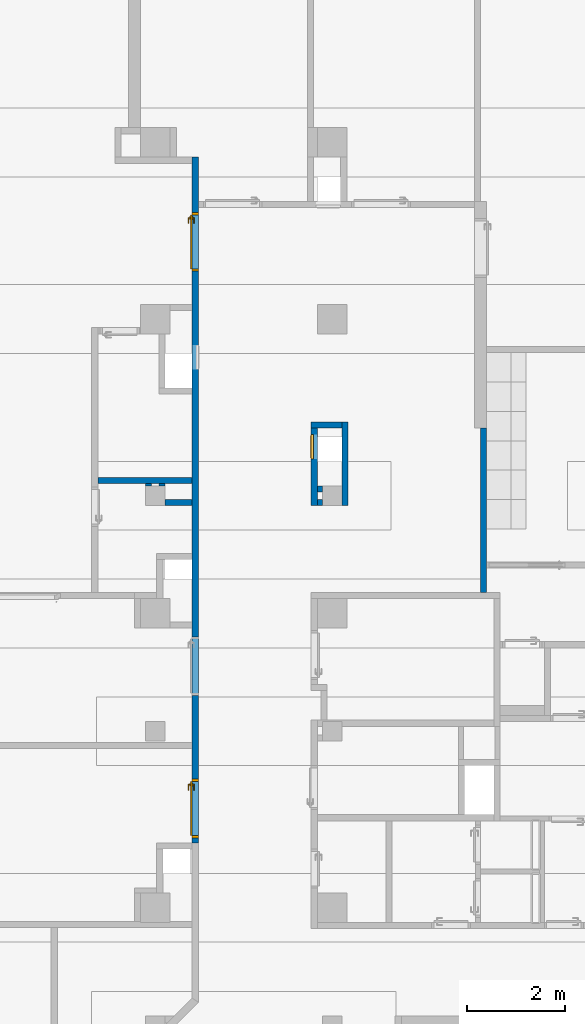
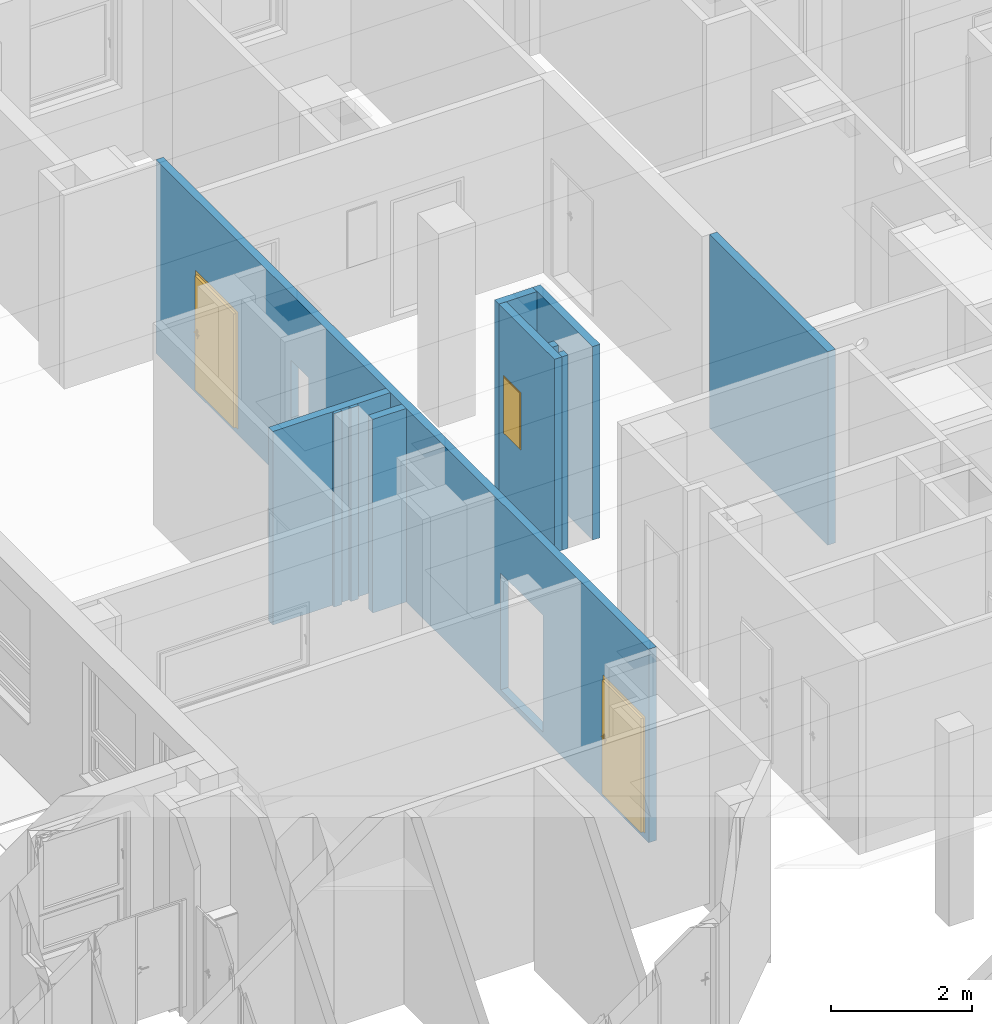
# One storey, part 45 of 140: 11 walls, 2 doors, 1 window, 5 openings.
"""IFC4 building model written with IfcOpenShell, lengths in metres."""

from ifc_helpers import new_model, entity, si_unit, converted_unit, derived_unit, frame, frame_2d, origin, origin_with_axes, place, context, subcontext, project, spatial, polyline, rectangle, outline, extrude, closed_shell, open_shell, faceted_brep, surface_model, source, transform, mapped, material, layer, layer_set, layer_usage, type_object, element, fill, save


model = new_model("IFC4")

# Units and contexts
model_context = context("Model", 3, precision=1e-05, world=origin())
body_context = subcontext(model_context, "Body", "Model", "MODEL_VIEW")
ifc_project = project(units=[si_unit("LENGTHUNIT", "METRE"), si_unit("AREAUNIT", "SQUARE_METRE"), si_unit("VOLUMEUNIT", "CUBIC_METRE"), si_unit("MASSUNIT", "GRAM", prefix="KILO"), converted_unit("PLANEANGLEUNIT", "DEGREE", entity("IfcPlaneAngleMeasure", 0.0174532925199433), si_unit("PLANEANGLEUNIT", "RADIAN"), dimensions=[0, 0, 0, 0, 0, 0, 0]), derived_unit("THERMALTRANSMITTANCEUNIT", [(si_unit("POWERUNIT", "WATT"), 1), (si_unit("THERMODYNAMICTEMPERATUREUNIT", "KELVIN"), -1), (si_unit("LENGTHUNIT", "METRE"), -2)]), derived_unit("VOLUMETRICFLOWRATEUNIT", [(si_unit("LENGTHUNIT", "METRE"), 3), (converted_unit("TIMEUNIT", "hour", entity("IfcTimeMeasure", 3600.0), si_unit("TIMEUNIT", "SECOND"), dimensions=[0, 0, 1, 0, 0, 0, 0]), -1), (si_unit("LENGTHUNIT", "METRE"), -1)])], contexts=[model_context])

# Site, building, storey
site_placement = place(None, origin())
site = spatial("IfcSite", under=ifc_project, at=site_placement, Name="3. ASŘ", CompositionType="ELEMENT")
building_placement = place(site_placement, origin())
building = spatial("IfcBuilding", under=site, at=building_placement, Name="Pavilon C", CompositionType="ELEMENT")
storey_placement = place(building_placement, origin())
storey = spatial("IfcBuildingStorey", under=building, at=storey_placement, Name="Půdorys 1.NP", CompositionType="ELEMENT", Elevation=0.0)

# Wall
ifc_material_1 = material(Name="ZDIVO Z CDm")
ifc_layer_1 = layer(ifc_material_1, 0.125)
ifc_layer_set_1 = layer_set([ifc_layer_1])
ifc_layer_usage_1 = layer_usage(ifc_layer_set_1, "AXIS2", "POSITIVE", 0.0)
wall_1_placement = place(storey_placement, frame((37.5, 19.625, -0.1), z_axis=(0.0, 0.0, 1.0), x_axis=(0.0, 1.0, 0.0)))
element("IfcWall", 1, at=wall_1_placement, inside=storey, material=ifc_layer_usage_1, Name="ZDIVO Z CDm", context=body_context, shape_type="SweptSolid", body=[
    extrude(rectangle(XDim=3.35000000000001, YDim=0.125, at=frame_2d((1.675, 0.0625), x_axis=(1.0, 0.0))), origin_with_axes(), (0.0, 0.0, 1.0), 3.35),
])

# Wall, openings, doors
ifc_material_2 = material(Name="ZDIVO Z CDm")
ifc_layer_2 = layer(ifc_material_2, 0.125)
ifc_layer_set_2 = layer_set([ifc_layer_2])
ifc_layer_usage_2 = layer_usage(ifc_layer_set_2, "AXIS2", "POSITIVE", 0.0)
wall_2_placement = place(storey_placement, frame((31.5, 28.5, -0.1), z_axis=(0.0, 0.0, 1.0), x_axis=(0.0, -1.0, 0.0)))
wall_2 = element("IfcWall", 2, at=wall_2_placement, inside=storey, material=ifc_layer_usage_2, Name="ZDIVO Z CDm", context=body_context, shape_type="SweptSolid", body=[
    extrude(rectangle(XDim=13.975, YDim=0.125, at=frame_2d((6.9875, 0.0625), x_axis=(1.0, 0.0))), origin_with_axes(), (0.0, 0.0, 1.0), 3.35),
])
opening_1_placement = place(wall_2_placement, frame((12.675, 0.0, 0.1), z_axis=(0.0, 1.0, 0.0), x_axis=(0.0, 0.0, 1.0)))
opening_1 = element("IfcOpeningElement", 3, at=opening_1_placement, cuts=wall_2, Name="Dveřní otvor", ObjectType="Opening", context=body_context, shape_type="SweptSolid", body=[
    extrude(outline(polyline([(0.0, 1.2), (2.02, 1.2), (2.02, 0.0), (0.0, 0.0), (0.0, 1.2)])), origin_with_axes(), (0.0, 0.0, 1.0), 0.125),
])
opening_2_placement = place(wall_2_placement, frame((10.975, 0.125, 0.1), z_axis=(0.0, -1.0, 0.0), x_axis=(0.0, 0.0, 1.0)))
element("IfcOpeningElement", 4, at=opening_2_placement, cuts=wall_2, Name="Dveřní otvor", ObjectType="Opening", context=body_context, shape_type="SweptSolid", body=[
    extrude(outline(polyline([(0.0, 1.2), (2.02, 1.2), (2.02, 0.0), (0.0, 0.0), (0.0, 1.2)])), origin_with_axes(), (0.0, 0.0, 1.0), 0.125),
])
opening_3_placement = place(wall_2_placement, frame((1.12500000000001, 0.0, 0.1), z_axis=(0.0, 1.0, 0.0), x_axis=(0.0, 0.0, 1.0)))
opening_3 = element("IfcOpeningElement", 5, at=opening_3_placement, cuts=wall_2, Name="Dveřní otvor", ObjectType="Opening", context=body_context, shape_type="SweptSolid", body=[
    extrude(outline(polyline([(0.0, 1.2), (2.02, 1.2), (2.02, 0.0), (0.0, 0.0), (0.0, 1.2)])), origin_with_axes(), (0.0, 0.0, 1.0), 0.125),
])
opening_4_placement = place(wall_2_placement, frame((4.32500000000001, 0.125, 1.2), z_axis=(0.0, -1.0, 0.0), x_axis=(0.0, 0.0, 1.0)))
element("IfcOpeningElement", 6, at=opening_4_placement, cuts=wall_2, Name="Okenní otvor", ObjectType="Opening", context=body_context, shape_type="SweptSolid", body=[
    extrude(outline(polyline([(0.0, 0.5), (1.0, 0.5), (1.0, 0.0), (0.0, 0.0), (0.0, 0.5)])), origin_with_axes(), (0.0, 0.0, 1.0), 0.125),
])
door_type_1 = type_object("IfcDoorType", Name="D101", OperationType="NOTDEFINED", ParameterTakesPrecedence=False, PredefinedType="DOOR")
shared_shape_1 = source(origin_with_axes(), body_context, "Body", "SurfaceModel", [
    surface_model("IfcShellBasedSurfaceModel", [(0.0, 0.125, 2.02), (0.0, 0.125, -7.65404249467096e-18), (0.05, 0.125, -7.65404249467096e-18), (0.05, 0.125, 2.02), (0.0, 0.0, 7.65404249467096e-18), (0.0, 2.41584530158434e-16, 2.02), (0.05, 2.41584530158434e-16, 2.02), (0.05, 0.0, 7.65404249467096e-18)], [closed_shell([[[0, 1, 2, 3]], [[4, 5, 6, 7]], [[1, 0, 5, 4]], [[2, 1, 4, 7]], [[3, 2, 7, 6]], [[0, 3, 6, 5]]], orient=[[False], [False], [False], [False], [False], [False]])]),
    surface_model("IfcShellBasedSurfaceModel", [(1.15, 0.125, 2.02), (1.15, 0.125, -7.65404249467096e-18), (1.2, 0.125, -7.65404249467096e-18), (1.2, 0.125, 2.02), (1.15, 0.0, 7.65404249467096e-18), (1.15, 2.41584530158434e-16, 2.02), (1.2, 2.41584530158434e-16, 2.02), (1.2, 0.0, 7.65404249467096e-18)], [closed_shell([[[0, 1, 2, 3]], [[4, 5, 6, 7]], [[1, 0, 5, 4]], [[2, 1, 4, 7]], [[3, 2, 7, 6]], [[0, 3, 6, 5]]], orient=[[False], [False], [False], [False], [False], [False]])]),
    surface_model("IfcShellBasedSurfaceModel", [(0.05, 0.125, 2.02), (0.05, 0.125, 1.97), (1.15, 0.125, 1.97), (1.15, 0.125, 2.02), (0.05, 2.41584530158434e-16, 1.97), (0.05, 2.41584530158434e-16, 2.02), (1.15, 2.41584530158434e-16, 2.02), (1.15, 2.41584530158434e-16, 1.97)], [closed_shell([[[0, 1, 2, 3]], [[4, 5, 6, 7]], [[1, 0, 5, 4]], [[2, 1, 4, 7]], [[3, 2, 7, 6]], [[0, 3, 6, 5]]], orient=[[False], [False], [False], [False], [False], [False]])]),
    surface_model("IfcShellBasedSurfaceModel", [(0.05, 0.165, 1.97), (0.05, 0.165, -1.25526296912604e-17), (1.15, 0.165, -1.25526296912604e-17), (1.15, 0.165, 1.97), (0.05, 0.125, -7.65404249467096e-18), (0.05, 0.125, 1.97), (1.15, 0.125, 1.97), (1.15, 0.125, -7.65404249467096e-18)], [closed_shell([[[0, 1, 2, 3]], [[4, 5, 6, 7]], [[1, 0, 5, 4]], [[2, 1, 4, 7]], [[3, 2, 7, 6]], [[0, 3, 6, 5]]], orient=[[False], [False], [False], [False], [False], [False]])]),
    surface_model("IfcShellBasedSurfaceModel", [(1.10881569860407, 0.125, 0.93625), (1.1125, 0.125, 0.95), (1.10881569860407, 0.125, 0.96375), (1.09875, 0.125, 0.973815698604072), (1.085, 0.125, 0.9775), (1.07125, 0.125, 0.973815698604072), (1.06118430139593, 0.125, 0.96375), (1.0575, 0.125, 0.95), (1.06118430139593, 0.125, 0.93625), (1.07125, 0.125, 0.926184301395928), (1.085, 0.125, 0.9225), (1.09875, 0.125, 0.926184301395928), (1.1125, 0.1125, 0.95), (1.10881569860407, 0.1125, 0.93625), (1.09875, 0.1125, 0.926184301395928), (1.085, 0.1125, 0.9225), (1.07125, 0.1125, 0.926184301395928), (1.06118430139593, 0.1125, 0.93625), (1.0575, 0.1125, 0.95), (1.06118430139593, 0.1125, 0.96375), (1.07125, 0.1125, 0.973815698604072), (1.085, 0.1125, 0.9775), (1.09875, 0.1125, 0.973815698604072), (1.10881569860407, 0.1125, 0.96375)], [closed_shell([[[0, 1, 2, 3, 4, 5, 6, 7, 8, 9, 10, 11]], [[12, 13, 14, 15, 16, 17, 18, 19, 20, 21, 22, 23]], [[1, 0, 13, 12]], [[2, 1, 12, 23]], [[3, 2, 23, 22]], [[4, 3, 22, 21]], [[5, 4, 21, 20]], [[6, 5, 20, 19]], [[7, 6, 19, 18]], [[8, 7, 18, 17]], [[9, 8, 17, 16]], [[10, 9, 16, 15]], [[11, 10, 15, 14]], [[0, 11, 14, 13]]], orient=[[False], [False], [False], [False], [False], [False], [False], [False], [False], [False], [False], [False], [False], [False]])]),
    surface_model("IfcShellBasedSurfaceModel", [(1.10881569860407, 0.125, 1.03625), (1.1125, 0.125, 1.05), (1.10881569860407, 0.125, 1.06375), (1.09875, 0.125, 1.07381569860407), (1.085, 0.125, 1.0775), (1.07125, 0.125, 1.07381569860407), (1.06118430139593, 0.125, 1.06375), (1.0575, 0.125, 1.05), (1.06118430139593, 0.125, 1.03625), (1.07125, 0.125, 1.02618430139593), (1.085, 0.125, 1.0225), (1.09875, 0.125, 1.02618430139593), (1.1125, 0.1125, 1.05), (1.10881569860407, 0.1125, 1.03625), (1.09875, 0.1125, 1.02618430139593), (1.085, 0.1125, 1.0225), (1.07125, 0.1125, 1.02618430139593), (1.06118430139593, 0.1125, 1.03625), (1.0575, 0.1125, 1.05), (1.06118430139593, 0.1125, 1.06375), (1.07125, 0.1125, 1.07381569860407), (1.085, 0.1125, 1.0775), (1.09875, 0.1125, 1.07381569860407), (1.10881569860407, 0.1125, 1.06375)], [closed_shell([[[0, 1, 2, 3, 4, 5, 6, 7, 8, 9, 10, 11]], [[12, 13, 14, 15, 16, 17, 18, 19, 20, 21, 22, 23]], [[1, 0, 13, 12]], [[2, 1, 12, 23]], [[3, 2, 23, 22]], [[4, 3, 22, 21]], [[5, 4, 21, 20]], [[6, 5, 20, 19]], [[7, 6, 19, 18]], [[8, 7, 18, 17]], [[9, 8, 17, 16]], [[10, 9, 16, 15]], [[11, 10, 15, 14]], [[0, 11, 14, 13]]], orient=[[False], [False], [False], [False], [False], [False], [False], [False], [False], [False], [False], [False], [False], [False]])]),
    surface_model("IfcShellBasedSurfaceModel", [(1.085, 0.125, 1.06), (1.08, 0.125, 1.05866025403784), (1.07633974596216, 0.125, 1.055), (1.075, 0.125, 1.05), (1.07633974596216, 0.125, 1.045), (1.08, 0.125, 1.04133974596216), (1.085, 0.125, 1.04), (1.09, 0.125, 1.04133974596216), (1.09366025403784, 0.125, 1.045), (1.095, 0.125, 1.05), (1.09366025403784, 0.125, 1.055), (1.09, 0.125, 1.05866025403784), (1.09, 0.0800000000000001, 1.05866025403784), (1.085, 0.0850000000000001, 1.06), (1.09366025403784, 0.0763397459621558, 1.055), (1.095, 0.0750000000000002, 1.05), (1.09366025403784, 0.0763397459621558, 1.045), (1.09, 0.0800000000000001, 1.04133974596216), (1.085, 0.0850000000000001, 1.04), (1.08, 0.0900000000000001, 1.04133974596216), (1.07633974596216, 0.0936602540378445, 1.045), (1.075, 0.0950000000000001, 1.05), (1.07633974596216, 0.0936602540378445, 1.055), (1.08, 0.0900000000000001, 1.05866025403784), (0.97, 0.0800000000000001, 1.05866025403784), (0.97, 0.0850000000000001, 1.06), (0.97, 0.0763397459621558, 1.055), (0.97, 0.0750000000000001, 1.05), (0.97, 0.0763397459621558, 1.045), (0.97, 0.0800000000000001, 1.04133974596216), (0.97, 0.0850000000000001, 1.04), (0.97, 0.0900000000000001, 1.04133974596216), (0.97, 0.0936602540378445, 1.045), (0.97, 0.0950000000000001, 1.05), (0.97, 0.0936602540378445, 1.055), (0.97, 0.0900000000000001, 1.05866025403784)], [open_shell([[[0, 1, 2, 3, 4, 5, 6, 7, 8, 9, 10, 11]], [[0, 11, 12, 13]], [[11, 10, 14, 12]], [[10, 9, 15, 14]], [[9, 8, 16, 15]], [[8, 7, 17, 16]], [[7, 6, 18, 17]], [[6, 5, 19, 18]], [[5, 4, 20, 19]], [[4, 3, 21, 20]], [[3, 2, 22, 21]], [[2, 1, 23, 22]], [[1, 0, 13, 23]], [[13, 12, 24, 25]], [[12, 14, 26, 24]], [[14, 15, 27, 26]], [[15, 16, 28, 27]], [[16, 17, 29, 28]], [[17, 18, 30, 29]], [[18, 19, 31, 30]], [[19, 20, 32, 31]], [[20, 21, 33, 32]], [[21, 22, 34, 33]], [[22, 23, 35, 34]], [[23, 13, 25, 35]]], orient=[[False], [False], [False], [False], [False], [False], [False], [False], [False], [False], [False], [False], [False], [False], [False], [False], [False], [False], [False], [False], [False], [False], [False], [False], [False]])]),
    surface_model("IfcShellBasedSurfaceModel", [(1.10881569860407, 0.165, 0.93625), (1.09875, 0.165, 0.926184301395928), (1.085, 0.165, 0.9225), (1.07125, 0.165, 0.926184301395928), (1.06118430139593, 0.165, 0.93625), (1.0575, 0.165, 0.95), (1.06118430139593, 0.165, 0.96375), (1.07125, 0.165, 0.973815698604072), (1.085, 0.165, 0.9775), (1.09875, 0.165, 0.973815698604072), (1.10881569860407, 0.165, 0.96375), (1.1125, 0.165, 0.95), (1.1125, 0.1775, 0.95), (1.10881569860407, 0.1775, 0.96375), (1.09875, 0.1775, 0.973815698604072), (1.085, 0.1775, 0.9775), (1.07125, 0.1775, 0.973815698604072), (1.06118430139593, 0.1775, 0.96375), (1.0575, 0.1775, 0.95), (1.06118430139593, 0.1775, 0.93625), (1.07125, 0.1775, 0.926184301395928), (1.085, 0.1775, 0.9225), (1.09875, 0.1775, 0.926184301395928), (1.10881569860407, 0.1775, 0.93625)], [closed_shell([[[0, 1, 2, 3, 4, 5, 6, 7, 8, 9, 10, 11]], [[12, 13, 14, 15, 16, 17, 18, 19, 20, 21, 22, 23]], [[11, 12, 23, 0]], [[10, 13, 12, 11]], [[9, 14, 13, 10]], [[8, 15, 14, 9]], [[7, 16, 15, 8]], [[6, 17, 16, 7]], [[5, 18, 17, 6]], [[4, 19, 18, 5]], [[3, 20, 19, 4]], [[2, 21, 20, 3]], [[1, 22, 21, 2]], [[0, 23, 22, 1]]], orient=[[False], [False], [False], [False], [False], [False], [False], [False], [False], [False], [False], [False], [False], [False]])]),
    surface_model("IfcShellBasedSurfaceModel", [(1.10881569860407, 0.165, 1.03625), (1.09875, 0.165, 1.02618430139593), (1.085, 0.165, 1.0225), (1.07125, 0.165, 1.02618430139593), (1.06118430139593, 0.165, 1.03625), (1.0575, 0.165, 1.05), (1.06118430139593, 0.165, 1.06375), (1.07125, 0.165, 1.07381569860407), (1.085, 0.165, 1.0775), (1.09875, 0.165, 1.07381569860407), (1.10881569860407, 0.165, 1.06375), (1.1125, 0.165, 1.05), (1.1125, 0.1775, 1.05), (1.10881569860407, 0.1775, 1.06375), (1.09875, 0.1775, 1.07381569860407), (1.085, 0.1775, 1.0775), (1.07125, 0.1775, 1.07381569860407), (1.06118430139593, 0.1775, 1.06375), (1.0575, 0.1775, 1.05), (1.06118430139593, 0.1775, 1.03625), (1.07125, 0.1775, 1.02618430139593), (1.085, 0.1775, 1.0225), (1.09875, 0.1775, 1.02618430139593), (1.10881569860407, 0.1775, 1.03625)], [closed_shell([[[0, 1, 2, 3, 4, 5, 6, 7, 8, 9, 10, 11]], [[12, 13, 14, 15, 16, 17, 18, 19, 20, 21, 22, 23]], [[11, 12, 23, 0]], [[10, 13, 12, 11]], [[9, 14, 13, 10]], [[8, 15, 14, 9]], [[7, 16, 15, 8]], [[6, 17, 16, 7]], [[5, 18, 17, 6]], [[4, 19, 18, 5]], [[3, 20, 19, 4]], [[2, 21, 20, 3]], [[1, 22, 21, 2]], [[0, 23, 22, 1]]], orient=[[False], [False], [False], [False], [False], [False], [False], [False], [False], [False], [False], [False], [False], [False]])]),
    surface_model("IfcShellBasedSurfaceModel", [(1.085, 0.165, 1.06), (1.09, 0.165, 1.05866025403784), (1.09366025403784, 0.165, 1.055), (1.095, 0.165, 1.05), (1.09366025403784, 0.165, 1.045), (1.09, 0.165, 1.04133974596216), (1.085, 0.165, 1.04), (1.08, 0.165, 1.04133974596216), (1.07633974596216, 0.165, 1.045), (1.075, 0.165, 1.05), (1.07633974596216, 0.165, 1.055), (1.08, 0.165, 1.05866025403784), (1.085, 0.205, 1.06), (1.09, 0.21, 1.05866025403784), (1.09366025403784, 0.213660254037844, 1.055), (1.095, 0.215, 1.05), (1.09366025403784, 0.213660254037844, 1.045), (1.09, 0.21, 1.04133974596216), (1.085, 0.205, 1.04), (1.08, 0.2, 1.04133974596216), (1.07633974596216, 0.196339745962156, 1.045), (1.075, 0.195, 1.05), (1.07633974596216, 0.196339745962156, 1.055), (1.08, 0.2, 1.05866025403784), (0.97, 0.205, 1.06), (0.97, 0.21, 1.05866025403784), (0.97, 0.213660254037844, 1.055), (0.97, 0.215, 1.05), (0.97, 0.213660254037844, 1.045), (0.97, 0.21, 1.04133974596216), (0.97, 0.205, 1.04), (0.97, 0.2, 1.04133974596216), (0.97, 0.196339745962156, 1.045), (0.97, 0.195, 1.05), (0.97, 0.196339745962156, 1.055), (0.97, 0.2, 1.05866025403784)], [open_shell([[[0, 1, 2, 3, 4, 5, 6, 7, 8, 9, 10, 11]], [[0, 12, 13, 1]], [[1, 13, 14, 2]], [[2, 14, 15, 3]], [[3, 15, 16, 4]], [[4, 16, 17, 5]], [[5, 17, 18, 6]], [[6, 18, 19, 7]], [[7, 19, 20, 8]], [[8, 20, 21, 9]], [[9, 21, 22, 10]], [[10, 22, 23, 11]], [[11, 23, 12, 0]], [[12, 24, 25, 13]], [[13, 25, 26, 14]], [[14, 26, 27, 15]], [[15, 27, 28, 16]], [[16, 28, 29, 17]], [[17, 29, 30, 18]], [[18, 30, 31, 19]], [[19, 31, 32, 20]], [[20, 32, 33, 21]], [[21, 33, 34, 22]], [[22, 34, 35, 23]], [[23, 35, 24, 12]]], orient=[[False], [False], [False], [False], [False], [False], [False], [False], [False], [False], [False], [False], [False], [False], [False], [False], [False], [False], [False], [False], [False], [False], [False], [False], [False]])]),
])
door_1_placement = place(opening_1_placement, frame((0.0, 1.20000000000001, 0.124999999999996), z_axis=(1.0, 0.0, 0.0), x_axis=(0.0, -1.0, 1.22464679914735e-16)))
door_1 = element("IfcDoor", 7, at=door_1_placement, inside=storey, type_object=door_type_1, Name="D101", OverallHeight=2.02, OverallWidth=1.2, context=body_context, shape_type="MappedRepresentation", body=[
    mapped(shared_shape_1, transform((0.0, 0.0, 0.0), x_axis=(1.0, 0.0, 0.0), y_axis=(0.0, 1.0, 0.0), z_axis=(0.0, 0.0, 1.0), scale=1.0)),
])
fill(opening_1, door_1)
door_type_2 = type_object("IfcDoorType", Name="D101", OperationType="NOTDEFINED", ParameterTakesPrecedence=False, PredefinedType="DOOR")
door_2_placement = place(opening_3_placement, frame((0.0, 1.20000000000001, 0.124999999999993), z_axis=(1.0, 0.0, 0.0), x_axis=(0.0, -1.0, 1.22464679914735e-16)))
door_2 = element("IfcDoor", 8, at=door_2_placement, inside=storey, type_object=door_type_2, Name="D101", OverallHeight=2.02, OverallWidth=1.2, context=body_context, shape_type="MappedRepresentation", body=[
    mapped(shared_shape_1, transform((0.0, 0.0, 0.0), x_axis=(1.0, 0.0, 0.0), y_axis=(0.0, 1.0, 0.0), z_axis=(0.0, 0.0, 1.0), scale=1.0)),
])
fill(opening_3, door_2)

# Walls
ifc_material_3 = material(Name="ZDIVO Z CDm")
ifc_layer_3 = layer(ifc_material_3, 0.125)
ifc_layer_set_3 = layer_set([ifc_layer_3])
ifc_layer_usage_3 = layer_usage(ifc_layer_set_3, "AXIS2", "POSITIVE", 0.0)
wall_3_placement = place(storey_placement, frame((30.95, 21.4, -0.1)))
element("IfcWall", 9, at=wall_3_placement, inside=storey, material=ifc_layer_usage_3, Name="ZDIVO Z CDm", context=body_context, shape_type="SweptSolid", body=[
    extrude(rectangle(XDim=0.549999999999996, YDim=0.125, at=frame_2d((0.274999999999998, 0.0625), x_axis=(1.0, 0.0))), origin_with_axes(), (0.0, 0.0, 1.0), 3.35),
])
ifc_material_4 = material(Name="ZDIVO Z CDm")
ifc_layer_4 = layer(ifc_material_4, 0.125)
ifc_layer_set_4 = layer_set([ifc_layer_4])
ifc_layer_usage_4 = layer_usage(ifc_layer_set_4, "AXIS2", "POSITIVE", 0.0)
wall_4_placement = place(storey_placement, frame((34.675, 21.4, -0.1), z_axis=(0.0, 0.0, 1.0), x_axis=(0.0, 1.0, 0.0)))
element("IfcWall", 10, at=wall_4_placement, inside=storey, material=ifc_layer_usage_4, Name="ZDIVO Z CDm", context=body_context, shape_type="SweptSolid", body=[
    extrude(rectangle(XDim=1.70000000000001, YDim=0.125, at=frame_2d((0.850000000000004, 0.0625), x_axis=(1.0, 0.0))), origin_with_axes(), (0.0, 0.0, 1.0), 3.35),
])
ifc_material_5 = material(Name="ZDIVO Z CDm")
ifc_layer_5 = layer(ifc_material_5, 0.125)
ifc_layer_set_5 = layer_set([ifc_layer_5])
ifc_layer_usage_5 = layer_usage(ifc_layer_set_5, "AXIS2", "POSITIVE", 0.0)
wall_5_placement = place(storey_placement, frame((34.15, 21.8, -0.1), z_axis=(0.0, 0.0, 1.0), x_axis=(-1.0, 0.0, 0.0)))
element("IfcWall", 11, at=wall_5_placement, inside=storey, material=ifc_layer_usage_5, Name="ZDIVO Z CDm", context=body_context, shape_type="SweptSolid", body=[
    extrude(rectangle(XDim=0.1, YDim=0.125, at=frame_2d((0.05, 0.0625), x_axis=(1.0, 0.0))), origin_with_axes(), (0.0, 0.0, 1.0), 3.35),
])
ifc_material_6 = material(Name="ZDIVO Z CDm")
ifc_layer_6 = layer(ifc_material_6, 0.125)
ifc_layer_set_6 = layer_set([ifc_layer_6])
ifc_layer_usage_6 = layer_usage(ifc_layer_set_6, "AXIS2", "POSITIVE", 0.0)
wall_6_placement = place(storey_placement, frame((34.05, 21.4, -0.1)))
element("IfcWall", 12, at=wall_6_placement, inside=storey, material=ifc_layer_usage_6, Name="ZDIVO Z CDm", context=body_context, shape_type="SweptSolid", body=[
    extrude(rectangle(XDim=0.1, YDim=0.125, at=frame_2d((0.05, 0.0625), x_axis=(1.0, 0.0))), origin_with_axes(), (0.0, 0.0, 1.0), 3.35),
])

# Wall, opening, window
ifc_material_7 = material(Name="ZDIVO Z CDm")
ifc_layer_7 = layer(ifc_material_7, 0.125)
ifc_layer_set_7 = layer_set([ifc_layer_7])
ifc_layer_usage_7 = layer_usage(ifc_layer_set_7, "AXIS2", "POSITIVE", 0.0)
wall_7_placement = place(storey_placement, frame((34.05, 21.4, -0.1), z_axis=(0.0, 0.0, 1.0), x_axis=(0.0, 1.0, 0.0)))
wall_7 = element("IfcWall", 13, at=wall_7_placement, inside=storey, material=ifc_layer_usage_7, Name="ZDIVO Z CDm", context=body_context, shape_type="SweptSolid", body=[
    extrude(rectangle(XDim=1.57500000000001, YDim=0.125, at=frame_2d((0.787500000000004, 0.0625), x_axis=(1.0, 0.0))), origin_with_axes(), (0.0, 0.0, 1.0), 3.35),
])
opening_5_placement = place(wall_7_placement, frame((1.45, 0.125, 1.2), z_axis=(0.0, -1.0, 0.0), x_axis=(0.0, 0.0, 1.0)))
opening_5 = element("IfcOpeningElement", 14, at=opening_5_placement, cuts=wall_7, Name="Okenní otvor", ObjectType="Opening", context=body_context, shape_type="SweptSolid", body=[
    extrude(outline(polyline([(0.0, 0.5), (1.0, 0.5), (1.0, 0.0), (0.0, 0.0), (0.0, 0.5)])), origin_with_axes(), (0.0, 0.0, 1.0), 0.125),
])
shared_shape_2 = source(origin_with_axes(), body_context, "Body", "Brep", [
    faceted_brep([(0.0, 0.0600000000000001, 1.0), (0.0, 0.06, 4.91096680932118e-19), (0.02, 0.06, 4.91096680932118e-19), (0.02, 0.0600000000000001, 1.0), (0.0, 0.01, 6.61433067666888e-18), (0.0, 0.0100000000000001, 1.0), (0.02, 0.0100000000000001, 1.0), (0.02, 0.01, 6.61433067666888e-18)], [[[0, 1, 2, 3]], [[4, 5, 6, 7]], [[1, 0, 5, 4]], [[2, 1, 4, 7]], [[3, 2, 7, 6]], [[0, 3, 6, 5]]], orient=[[False], [False], [False], [False], [False], [False]]),
    faceted_brep([(0.48, 0.0600000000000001, 1.0), (0.48, 0.06, 4.91096680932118e-19), (0.5, 0.06, 4.91096680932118e-19), (0.5, 0.0600000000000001, 1.0), (0.48, 0.01, 6.61433067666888e-18), (0.48, 0.0100000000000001, 1.0), (0.5, 0.0100000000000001, 1.0), (0.5, 0.01, 6.61433067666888e-18)], [[[0, 1, 2, 3]], [[4, 5, 6, 7]], [[1, 0, 5, 4]], [[2, 1, 4, 7]], [[3, 2, 7, 6]], [[0, 3, 6, 5]]], orient=[[False], [False], [False], [False], [False], [False]]),
    faceted_brep([(0.02, 0.06, 0.02), (0.02, 0.06, 4.91096680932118e-19), (0.48, 0.06, 4.91096680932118e-19), (0.48, 0.06, 0.02), (0.02, 0.01, 6.61433067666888e-18), (0.02, 0.01, 0.02), (0.48, 0.01, 0.02), (0.48, 0.01, 6.61433067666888e-18)], [[[0, 1, 2, 3]], [[4, 5, 6, 7]], [[1, 0, 5, 4]], [[2, 1, 4, 7]], [[3, 2, 7, 6]], [[0, 3, 6, 5]]], orient=[[False], [False], [False], [False], [False], [False]]),
    faceted_brep([(0.02, 0.0600000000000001, 1.0), (0.02, 0.0600000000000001, 0.98), (0.48, 0.0600000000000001, 0.98), (0.48, 0.0600000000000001, 1.0), (0.02, 0.0100000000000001, 0.98), (0.02, 0.0100000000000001, 1.0), (0.48, 0.0100000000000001, 1.0), (0.48, 0.0100000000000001, 0.98)], [[[0, 1, 2, 3]], [[4, 5, 6, 7]], [[1, 0, 5, 4]], [[2, 1, 4, 7]], [[3, 2, 7, 6]], [[0, 3, 6, 5]]], orient=[[False], [False], [False], [False], [False], [False]]),
    faceted_brep([(0.02, 0.0100000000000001, 0.98), (0.02, 0.01, 0.02), (0.48, 0.01, 0.02), (0.48, 0.0100000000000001, 0.98), (0.02, 0.0, 0.02), (0.02, 1.17239551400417e-16, 0.98), (0.48, 1.17239551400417e-16, 0.98), (0.48, 0.0, 0.02)], [[[0, 1, 2, 3]], [[4, 5, 6, 7]], [[1, 0, 5, 4]], [[2, 1, 4, 7]], [[3, 2, 7, 6]], [[0, 3, 6, 5]]], orient=[[False], [False], [False], [False], [False], [False]]),
])
window_placement = place(opening_5_placement, frame((0.0, 7.27595761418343e-15, -0.0100000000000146), z_axis=(1.0, 0.0, 0.0), x_axis=(0.0, 1.0, 1.22464679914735e-16)))
window = element("IfcWindow", 15, at=window_placement, inside=storey, Name="O01", OverallHeight=1.0, OverallWidth=0.5, PartitioningType="USERDEFINED", PredefinedType="WINDOW", context=body_context, shape_type="MappedRepresentation", body=[
    mapped(shared_shape_2, transform((0.0, 0.0, 0.0), x_axis=(1.0, 0.0, 0.0), y_axis=(0.0, 1.0, 0.0), z_axis=(0.0, 0.0, 1.0), scale=1.0)),
])
fill(opening_5, window)

# Walls
ifc_material_8 = material(Name="ZDIVO Z CDm")
ifc_layer_8 = layer(ifc_material_8, 0.125)
ifc_layer_set_8 = layer_set([ifc_layer_8])
ifc_layer_usage_8 = layer_usage(ifc_layer_set_8, "AXIS2", "POSITIVE", 0.0)
wall_8_placement = place(storey_placement, frame((33.925, 22.975, -0.1)))
element("IfcWall", 16, at=wall_8_placement, inside=storey, material=ifc_layer_usage_8, Name="ZDIVO Z CDm", context=body_context, shape_type="SweptSolid", body=[
    extrude(rectangle(XDim=0.625, YDim=0.125, at=frame_2d((0.3125, 0.0625), x_axis=(1.0, 0.0))), origin_with_axes(), (0.0, 0.0, 1.0), 3.35),
])
ifc_material_9 = material(Name="ZDIVO Z CDm")
ifc_layer_9 = layer(ifc_material_9, 0.125)
ifc_layer_set_9 = layer_set([ifc_layer_9])
ifc_layer_usage_9 = layer_usage(ifc_layer_set_9, "AXIS2", "POSITIVE", 0.0)
wall_9_placement = place(storey_placement, frame((29.575, 21.85, -0.1)))
element("IfcWall", 17, at=wall_9_placement, inside=storey, material=ifc_layer_usage_9, Name="ZDIVO Z CDm", context=body_context, shape_type="SweptSolid", body=[
    extrude(rectangle(XDim=1.925, YDim=0.125, at=frame_2d((0.9625, 0.0625), x_axis=(1.0, 0.0))), origin_with_axes(), (0.0, 0.0, 1.0), 3.35),
])
ifc_material_10 = material(Name="ZDIVO Z CDm")
ifc_layer_10 = layer(ifc_material_10, 0.125)
ifc_layer_set_10 = layer_set([ifc_layer_10])
ifc_layer_usage_10 = layer_usage(ifc_layer_set_10, "AXIS2", "POSITIVE", 0.0)
wall_10_placement = place(storey_placement, frame((30.95, 21.8, -0.1), z_axis=(0.0, 0.0, 1.0), x_axis=(0.0, 1.0, 0.0)))
element("IfcWall", 18, at=wall_10_placement, inside=storey, material=ifc_layer_usage_10, Name="ZDIVO Z CDm", context=body_context, shape_type="SweptSolid", body=[
    extrude(rectangle(XDim=0.05, YDim=0.125, at=frame_2d((0.025, 0.0625), x_axis=(1.0, 0.0))), origin_with_axes(), (0.0, 0.0, 1.0), 3.35),
])
ifc_material_11 = material(Name="ZDIVO Z CDm")
ifc_layer_11 = layer(ifc_material_11, 0.125)
ifc_layer_set_11 = layer_set([ifc_layer_11])
ifc_layer_usage_11 = layer_usage(ifc_layer_set_11, "AXIS2", "POSITIVE", 0.0)
wall_11_placement = place(storey_placement, frame((30.675, 21.8, -0.1), z_axis=(0.0, 0.0, 1.0), x_axis=(0.0, 1.0, 0.0)))
element("IfcWall", 19, at=wall_11_placement, inside=storey, material=ifc_layer_usage_11, Name="ZDIVO Z CDm", context=body_context, shape_type="SweptSolid", body=[
    extrude(rectangle(XDim=0.05, YDim=0.125, at=frame_2d((0.025, 0.0625), x_axis=(1.0, 0.0))), origin_with_axes(), (0.0, 0.0, 1.0), 3.35),
])

save(model, "model.ifc")
